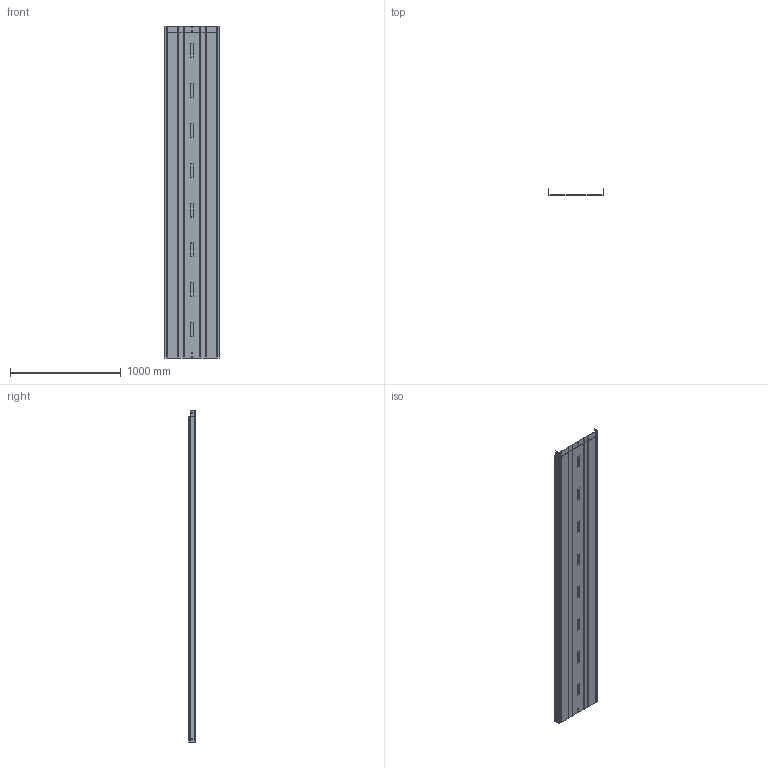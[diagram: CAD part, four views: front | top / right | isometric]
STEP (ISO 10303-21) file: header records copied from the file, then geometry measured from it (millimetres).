
FILE_DESCRIPTION (( 'STEP AP203' ), '1' );
FILE_NAME ('ERE-C 500x60 500x60.step', '2023-07-27T14:13:49', ( '' ), ( '' ), 'SwSTEP 2.0', 'SolidWorks 2022', '' );
FILE_SCHEMA (( 'CONFIG_CONTROL_DESIGN' ));
Products named in the file (1): ERE-C 500x60 500x60
Bounding box: 500 x 60.8 x 3000 mm (x, y, z)
Volume: 1521805.7 mm3; surface area: 3804405 mm2
Topology: 1 solids, 1 shells, 10188 faces, 29862 edges, 19756 vertices
Faces by surface type: plane 9820, cylinder 236, torus 68, cone 56, bspline 4, sphere 4
Entity records: 331037 total; most frequent: CARTESIAN_POINT 60201, ORIENTED_EDGE 59724, DIRECTION 50674, EDGE_CURVE 29862, VECTOR 29192, LINE 29192, VERTEX_POINT 19756, AXIS2_PLACEMENT_3D 10741
